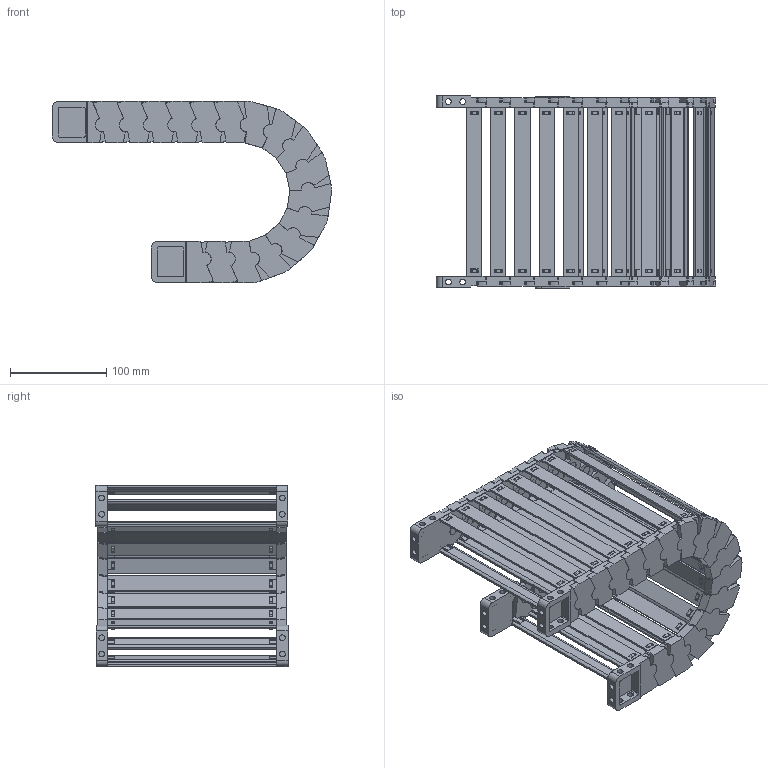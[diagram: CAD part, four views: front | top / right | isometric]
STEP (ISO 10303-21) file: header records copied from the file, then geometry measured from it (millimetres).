
FILE_DESCRIPTION((''),'2;1');
FILE_NAME('JY-35X175-R75_ASM','2026-05-04T14:26:50',('admin'),(''),'CREO PARAMETRIC BY PTC INC, 2021023','CREO PARAMETRIC BY PTC INC, 2021023','');
FILE_SCHEMA(('CONFIG_CONTROL_DESIGN'));
Length unit declared in the file: millimetre
Products named in the file (11): 35XL-L; 25-35XL-YP; 35XL-R; ASM0001_ASM; 35-LTT-A-L; 35-LTT-A-R; 35XL-LTT-A_ASM; 35-LTT-B-L; 35-LTT-B-R; 35XL-LTT-B_ASM; JY-35X175-R75_ASM
Assembly tree (30 placements, depth 3):
  JY-35X175-R75_ASM
    ASM0001_ASM  x16
      35XL-L
      25-35XL-YP
      35XL-R
    35XL-LTT-A_ASM
      35-LTT-A-L
      25-35XL-YP  x2
      35-LTT-A-R
    35XL-LTT-B_ASM
      35-LTT-B-L
      25-35XL-YP  x2
      35-LTT-B-R
Bounding box: 290.74 x 200.1 x 188.76 mm (x, y, z)
Volume: 704876.6 mm3; surface area: 450647.7 mm2
Topology: 72 solids, 72 shells, 3748 faces, 10958 edges, 7324 vertices
Faces by surface type: plane 2844, cylinder 900, bspline 4
Entity records: 17136 total; most frequent: CARTESIAN_POINT 3189, ORIENTED_EDGE 2876, DIRECTION 2858, EDGE_CURVE 1438, VECTOR 1056, LINE 1056, VERTEX_POINT 964, AXIS2_PLACEMENT_3D 901
